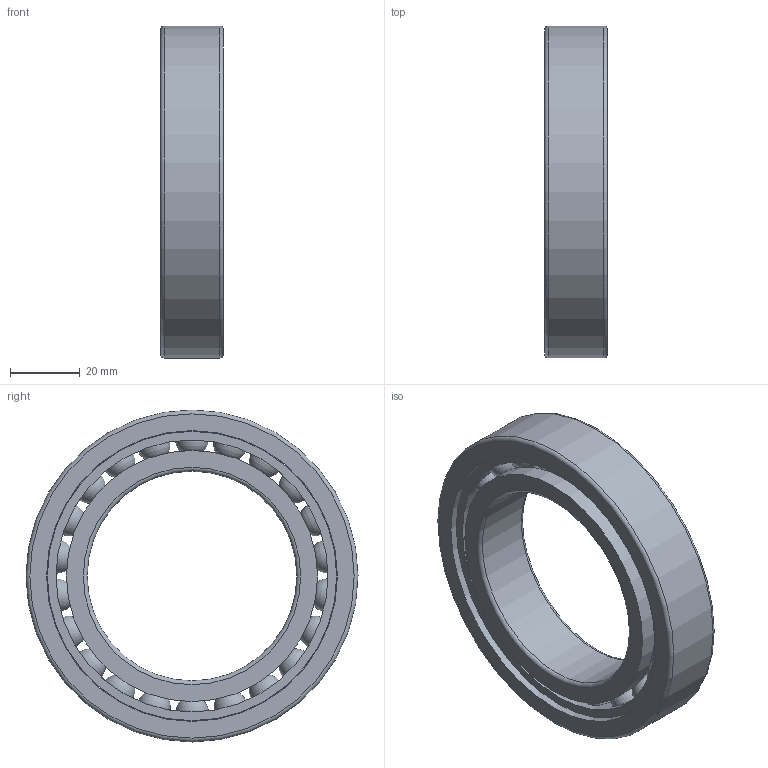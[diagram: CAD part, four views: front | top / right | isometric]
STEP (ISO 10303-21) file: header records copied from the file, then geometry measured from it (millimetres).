
FILE_DESCRIPTION(/* description */ (''),/* implementation_level */ '2;1');
FILE_NAME(/* name */ 'SM_6012_TA.step',/* time_stamp */ '2013-03-11T11:34:39+01:00',/* author */ ('Marian'),/* organization */ ('GMN'),/* preprocessor_version */ 'ST-DEVELOPER v11',/* originating_system */ 'SIEMENS UGS NX 6.0',/* authorisation */ '');
FILE_SCHEMA (('CONFIG_CONTROL_DESIGN'));
Length unit declared in the file: millimetre
Products named in the file (1): SM_6012_TA
Bounding box: 18 x 95 x 95 mm (x, y, z)
Volume: 57664.3 mm3; surface area: 35840.5 mm2
Topology: 25 solids, 25 shells, 64 faces, 170 edges, 110 vertices
Faces by surface type: cylinder 29, sphere 22, torus 6, plane 6, cone 1
Full cylindrical faces by diameter (mm): 9.725 x22, 60 x1, 71.9 x2, 77.825 x1, 82.8 x1, 83.2 x1, 95 x1
Entity records: 2126 total; most frequent: CARTESIAN_POINT 963, DIRECTION 170, FACE_BOUND 150, EDGE_LOOP 128, ORIENTED_EDGE 128, VERTEX_POINT 86, AXIS2_PLACEMENT_3D 85, EDGE_CURVE 64
